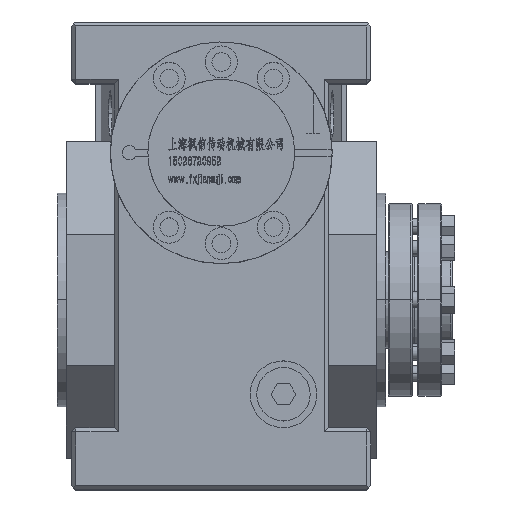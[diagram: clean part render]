
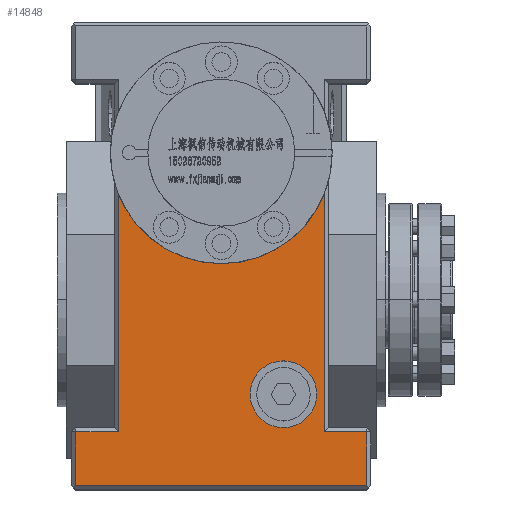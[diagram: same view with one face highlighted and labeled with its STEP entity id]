
A CAD part, top view. The second image highlights one B-rep face of the part: STEP entity #14848.
In plain terms, the highlighted planar face has unit normal (0, 0, 1).
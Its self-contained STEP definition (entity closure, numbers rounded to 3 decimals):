
#169 = CARTESIAN_POINT ( 'NONE',  ( 23.262, -35.413, 75. ) ) ;
#943 = DIRECTION ( 'NONE',  ( -1., 0., 0. ) ) ;
#1396 = LINE ( 'NONE', #18719, #44779 ) ;
#4442 = DIRECTION ( 'NONE',  ( 0., 1., 0. ) ) ;
#5435 = EDGE_CURVE ( 'NONE', #52954, #62855, #72362, .T. ) ;
#10045 = EDGE_LOOP ( 'NONE', ( #55820, #41061 ) ) ;
#11950 = DIRECTION ( 'NONE',  ( 0., -1., 0. ) ) ;
#12177 = EDGE_CURVE ( 'NONE', #62170, #91464, #37947, .T. ) ;
#12911 = LINE ( 'NONE', #83950, #51992 ) ;
#13083 = DIRECTION ( 'NONE',  ( 1., 0., 0. ) ) ;
#13522 = DIRECTION ( 'NONE',  ( 0., 1., 0. ) ) ;
#14848 = ADVANCED_FACE ( 'NONE', ( #111325, #32214 ), #67442, .F. ) ;
#14921 = DIRECTION ( 'NONE',  ( 0., -1., 0. ) ) ;
#18194 = ORIENTED_EDGE ( 'NONE', *, *, #5435, .F. ) ;
#18277 = AXIS2_PLACEMENT_3D ( 'NONE', #97415, #61594, #943 ) ;
#18719 = CARTESIAN_POINT ( 'NONE',  ( -38.5, -48., 75. ) ) ;
#19078 = ORIENTED_EDGE ( 'NONE', *, *, #36584, .T. ) ;
#20186 = CARTESIAN_POINT ( 'NONE',  ( -38.5, 39.508, 75. ) ) ;
#22309 = CARTESIAN_POINT ( 'NONE',  ( 56., -69.5, 75. ) ) ;
#22907 = CARTESIAN_POINT ( 'NONE',  ( 38.5, 43.943, 75. ) ) ;
#23327 = LINE ( 'NONE', #34262, #99969 ) ;
#23840 = CIRCLE ( 'NONE', #112374, 12.5 ) ;
#25443 = CARTESIAN_POINT ( 'NONE',  ( 23.262, -35.413, 75. ) ) ;
#25989 = DIRECTION ( 'NONE',  ( 0., 0., 1. ) ) ;
#26194 = VECTOR ( 'NONE', #75358, 1000. ) ;
#29694 = ORIENTED_EDGE ( 'NONE', *, *, #61991, .T. ) ;
#31317 = VECTOR ( 'NONE', #13083, 1000. ) ;
#32214 = FACE_OUTER_BOUND ( 'NONE', #73253, .T. ) ;
#32321 = EDGE_CURVE ( 'NONE', #73095, #106690, #23840, .T. ) ;
#32855 = EDGE_CURVE ( 'NONE', #91464, #110766, #37940, .T. ) ;
#33135 = DIRECTION ( 'NONE',  ( -1., 0., 0. ) ) ;
#34262 = CARTESIAN_POINT ( 'NONE',  ( 56., -49.5, 75. ) ) ;
#36584 = EDGE_CURVE ( 'NONE', #110766, #43454, #12911, .T. ) ;
#37940 = LINE ( 'NONE', #22309, #31317 ) ;
#37947 = LINE ( 'NONE', #47182, #71539 ) ;
#39090 = LINE ( 'NONE', #22907, #96439 ) ;
#41061 = ORIENTED_EDGE ( 'NONE', *, *, #47421, .F. ) ;
#43454 = VERTEX_POINT ( 'NONE', #96667 ) ;
#44779 = VECTOR ( 'NONE', #14921, 1000. ) ;
#47182 = CARTESIAN_POINT ( 'NONE',  ( -54.5, 104., 75. ) ) ;
#47421 = EDGE_CURVE ( 'NONE', #106690, #73095, #84487, .T. ) ;
#47778 = CARTESIAN_POINT ( 'NONE',  ( 38.5, 39.508, 75. ) ) ;
#51937 = VERTEX_POINT ( 'NONE', #59610 ) ;
#51992 = VECTOR ( 'NONE', #57939, 1000. ) ;
#52223 = ORIENTED_EDGE ( 'NONE', *, *, #60180, .T. ) ;
#52954 = VERTEX_POINT ( 'NONE', #20186 ) ;
#53873 = DIRECTION ( 'NONE',  ( 1., 0., 0. ) ) ;
#55746 = CARTESIAN_POINT ( 'NONE',  ( 10.762, -35.413, 75. ) ) ;
#55820 = ORIENTED_EDGE ( 'NONE', *, *, #32321, .F. ) ;
#56835 = DIRECTION ( 'NONE',  ( 0., 0., 1. ) ) ;
#57377 = CARTESIAN_POINT ( 'NONE',  ( 54.5, -69.5, 75. ) ) ;
#57939 = DIRECTION ( 'NONE',  ( 0., 1., 0. ) ) ;
#59610 = CARTESIAN_POINT ( 'NONE',  ( -38.5, -49.5, 75. ) ) ;
#60180 = EDGE_CURVE ( 'NONE', #51937, #62170, #92155, .T. ) ;
#61199 = DIRECTION ( 'NONE',  ( 1., 0., 0. ) ) ;
#61281 = EDGE_CURVE ( 'NONE', #43454, #79377, #23327, .T. ) ;
#61594 = DIRECTION ( 'NONE',  ( 0., 0., -1. ) ) ;
#61959 = DIRECTION ( 'NONE',  ( 0., 0., 1. ) ) ;
#61991 = EDGE_CURVE ( 'NONE', #79377, #62855, #39090, .T. ) ;
#62170 = VERTEX_POINT ( 'NONE', #113533 ) ;
#62855 = VERTEX_POINT ( 'NONE', #47778 ) ;
#63055 = ORIENTED_EDGE ( 'NONE', *, *, #32855, .T. ) ;
#67442 = PLANE ( 'NONE',  #18277 ) ;
#71539 = VECTOR ( 'NONE', #11950, 1000. ) ;
#72100 = CARTESIAN_POINT ( 'NONE',  ( -54.5, -69.5, 75. ) ) ;
#72362 = CIRCLE ( 'NONE', #111151, 41.5 ) ;
#72805 = ORIENTED_EDGE ( 'NONE', *, *, #91628, .T. ) ;
#73095 = VERTEX_POINT ( 'NONE', #112710 ) ;
#73253 = EDGE_LOOP ( 'NONE', ( #106545, #63055, #19078, #86695, #29694, #18194, #72805, #52223 ) ) ;
#75358 = DIRECTION ( 'NONE',  ( -1., 0., 0. ) ) ;
#75920 = CARTESIAN_POINT ( 'NONE',  ( -56., -49.5, 75. ) ) ;
#79377 = VERTEX_POINT ( 'NONE', #85166 ) ;
#83950 = CARTESIAN_POINT ( 'NONE',  ( 54.5, -48., 75. ) ) ;
#84487 = CIRCLE ( 'NONE', #91822, 12.5 ) ;
#85166 = CARTESIAN_POINT ( 'NONE',  ( 38.5, -49.5, 75. ) ) ;
#86695 = ORIENTED_EDGE ( 'NONE', *, *, #61281, .T. ) ;
#91464 = VERTEX_POINT ( 'NONE', #72100 ) ;
#91628 = EDGE_CURVE ( 'NONE', #52954, #51937, #1396, .T. ) ;
#91822 = AXIS2_PLACEMENT_3D ( 'NONE', #169, #61959, #53873 ) ;
#92155 = LINE ( 'NONE', #75920, #26194 ) ;
#96439 = VECTOR ( 'NONE', #4442, 1000. ) ;
#96667 = CARTESIAN_POINT ( 'NONE',  ( 54.5, -49.5, 75. ) ) ;
#97415 = CARTESIAN_POINT ( 'NONE',  ( 56., 104., 75. ) ) ;
#99969 = VECTOR ( 'NONE', #33135, 1000. ) ;
#100738 = CARTESIAN_POINT ( 'NONE',  ( 0., 55., 75. ) ) ;
#106545 = ORIENTED_EDGE ( 'NONE', *, *, #12177, .T. ) ;
#106690 = VERTEX_POINT ( 'NONE', #55746 ) ;
#110766 = VERTEX_POINT ( 'NONE', #57377 ) ;
#111151 = AXIS2_PLACEMENT_3D ( 'NONE', #100738, #56835, #13522 ) ;
#111325 = FACE_BOUND ( 'NONE', #10045, .T. ) ;
#112374 = AXIS2_PLACEMENT_3D ( 'NONE', #25443, #25989, #61199 ) ;
#112710 = CARTESIAN_POINT ( 'NONE',  ( 35.762, -35.413, 75. ) ) ;
#113533 = CARTESIAN_POINT ( 'NONE',  ( -54.5, -49.5, 75. ) ) ;
